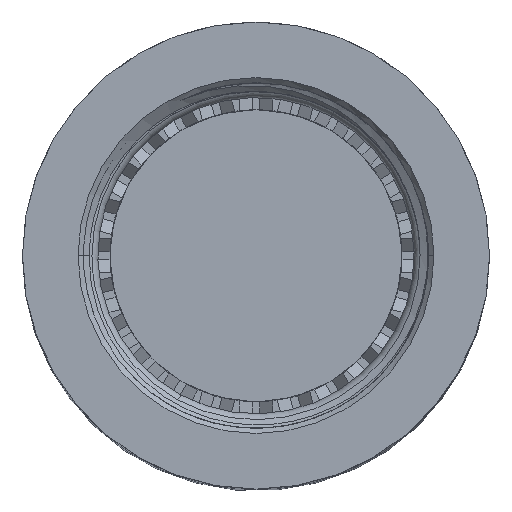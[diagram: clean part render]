
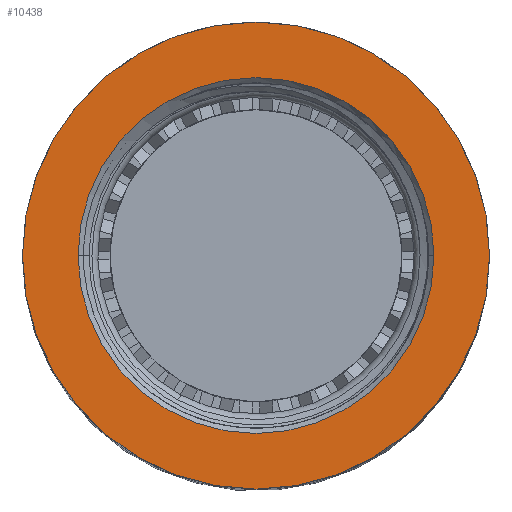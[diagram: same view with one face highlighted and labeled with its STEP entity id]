
A CAD part, top view. The second image highlights one B-rep face of the part: STEP entity #10438.
In plain terms, the highlighted planar face has unit normal (0, 0, 1).
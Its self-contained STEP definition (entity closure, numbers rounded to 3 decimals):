
#466 = CARTESIAN_POINT ( 'NONE',  ( -11.252, 0., 5.664 ) ) ;
#824 = FACE_OUTER_BOUND ( 'NONE', #1002, .T. ) ;
#851 = AXIS2_PLACEMENT_3D ( 'NONE', #5271, #3031, #2147 ) ;
#1002 = EDGE_LOOP ( 'NONE', ( #8385, #5699 ) ) ;
#1816 = EDGE_CURVE ( 'NONE', #4172, #14013, #11088, .T. ) ;
#1853 = DIRECTION ( 'NONE',  ( 1., 0., 0. ) ) ;
#2147 = DIRECTION ( 'NONE',  ( 1., 0., 0. ) ) ;
#2424 = EDGE_CURVE ( 'NONE', #14013, #4172, #11573, .T. ) ;
#3031 = DIRECTION ( 'NONE',  ( 0., 0., -1. ) ) ;
#3108 = DIRECTION ( 'NONE',  ( 0., 0., 1. ) ) ;
#3394 = EDGE_CURVE ( 'NONE', #10037, #12811, #7391, .T. ) ;
#4172 = VERTEX_POINT ( 'NONE', #7386 ) ;
#4967 = CARTESIAN_POINT ( 'NONE',  ( 0., 0., 5.664 ) ) ;
#5271 = CARTESIAN_POINT ( 'NONE',  ( 0., 0., 5.664 ) ) ;
#5278 = PLANE ( 'NONE',  #11297 ) ;
#5621 = DIRECTION ( 'NONE',  ( 1., 0., 0. ) ) ;
#5699 = ORIENTED_EDGE ( 'NONE', *, *, #13489, .F. ) ;
#5969 = FACE_BOUND ( 'NONE', #7608, .T. ) ;
#6210 = DIRECTION ( 'NONE',  ( 0., 0., -1. ) ) ;
#6860 = DIRECTION ( 'NONE',  ( 0., 0., -1. ) ) ;
#7386 = CARTESIAN_POINT ( 'NONE',  ( 11.252, 0., 5.664 ) ) ;
#7391 = CIRCLE ( 'NONE', #14388, 14.77 ) ;
#7534 = DIRECTION ( 'NONE',  ( -1., 0., 0. ) ) ;
#7608 = EDGE_LOOP ( 'NONE', ( #13261, #12603 ) ) ;
#8385 = ORIENTED_EDGE ( 'NONE', *, *, #3394, .F. ) ;
#8399 = CARTESIAN_POINT ( 'NONE',  ( 0., 0., 5.664 ) ) ;
#8450 = AXIS2_PLACEMENT_3D ( 'NONE', #4967, #11532, #9420 ) ;
#9420 = DIRECTION ( 'NONE',  ( 1., 0., 0. ) ) ;
#9619 = CIRCLE ( 'NONE', #8450, 14.77 ) ;
#10037 = VERTEX_POINT ( 'NONE', #11084 ) ;
#10438 = ADVANCED_FACE ( 'NONE', ( #5969, #824 ), #5278, .T. ) ;
#11084 = CARTESIAN_POINT ( 'NONE',  ( 14.77, 0., 5.664 ) ) ;
#11088 = CIRCLE ( 'NONE', #851, 11.252 ) ;
#11297 = AXIS2_PLACEMENT_3D ( 'NONE', #13086, #3108, #7534 ) ;
#11532 = DIRECTION ( 'NONE',  ( 0., 0., -1. ) ) ;
#11573 = CIRCLE ( 'NONE', #12739, 11.252 ) ;
#12403 = CARTESIAN_POINT ( 'NONE',  ( 0., 0., 5.664 ) ) ;
#12603 = ORIENTED_EDGE ( 'NONE', *, *, #2424, .T. ) ;
#12739 = AXIS2_PLACEMENT_3D ( 'NONE', #12403, #6860, #5621 ) ;
#12811 = VERTEX_POINT ( 'NONE', #13273 ) ;
#13086 = CARTESIAN_POINT ( 'NONE',  ( 14.77, 0., 5.664 ) ) ;
#13261 = ORIENTED_EDGE ( 'NONE', *, *, #1816, .T. ) ;
#13273 = CARTESIAN_POINT ( 'NONE',  ( -14.77, 0., 5.664 ) ) ;
#13489 = EDGE_CURVE ( 'NONE', #12811, #10037, #9619, .T. ) ;
#14013 = VERTEX_POINT ( 'NONE', #466 ) ;
#14388 = AXIS2_PLACEMENT_3D ( 'NONE', #8399, #6210, #1853 ) ;
